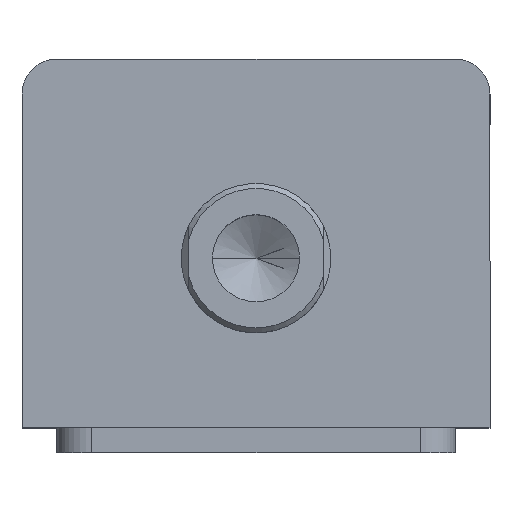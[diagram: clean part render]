
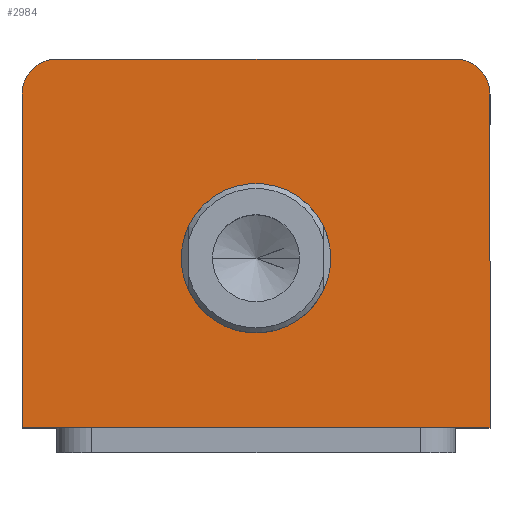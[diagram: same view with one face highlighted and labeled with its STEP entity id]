
A CAD part, top view. The second image highlights one B-rep face of the part: STEP entity #2984.
In plain terms, the highlighted planar face has unit normal (0, 0, 1).
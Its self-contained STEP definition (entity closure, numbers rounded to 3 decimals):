
#258 = LINE ( 'NONE', #1174, #268 ) ;
#268 = VECTOR ( 'NONE', #1182, 1000. ) ;
#281 = LINE ( 'NONE', #1699, #284 ) ;
#284 = VECTOR ( 'NONE', #1691, 1000. ) ;
#300 = CIRCLE ( 'NONE', #1390, 7. ) ;
#304 = CIRCLE ( 'NONE', #1386, 7. ) ;
#422 = VERTEX_POINT ( 'NONE', #1256 ) ;
#428 = VERTEX_POINT ( 'NONE', #1250 ) ;
#432 = VERTEX_POINT ( 'NONE', #1246 ) ;
#479 = ORIENTED_EDGE ( 'NONE', *, *, #1005, .T. ) ;
#606 = ORIENTED_EDGE ( 'NONE', *, *, #967, .T. ) ;
#609 = ORIENTED_EDGE ( 'NONE', *, *, #1153, .F. ) ;
#611 = ORIENTED_EDGE ( 'NONE', *, *, #1020, .F. ) ;
#625 = ORIENTED_EDGE ( 'NONE', *, *, #979, .T. ) ;
#628 = ORIENTED_EDGE ( 'NONE', *, *, #957, .T. ) ;
#635 = ORIENTED_EDGE ( 'NONE', *, *, #983, .T. ) ;
#653 = ORIENTED_EDGE ( 'NONE', *, *, #1150, .T. ) ;
#732 = FACE_BOUND ( 'NONE', #1775, .T. ) ;
#736 = FACE_OUTER_BOUND ( 'NONE', #1779, .T. ) ;
#957 = EDGE_CURVE ( 'NONE', #1339, #422, #258, .T. ) ;
#967 = EDGE_CURVE ( 'NONE', #432, #428, #281, .T. ) ;
#979 = EDGE_CURVE ( 'NONE', #428, #1329, #300, .T. ) ;
#983 = EDGE_CURVE ( 'NONE', #422, #432, #304, .T. ) ;
#1005 = EDGE_CURVE ( 'NONE', #1329, #1987, #2592, .T. ) ;
#1020 = EDGE_CURVE ( 'NONE', #1994, #1757, #2625, .T. ) ;
#1150 = EDGE_CURVE ( 'NONE', #1987, #1339, #2800, .T. ) ;
#1153 = EDGE_CURVE ( 'NONE', #1757, #1994, #2815, .T. ) ;
#1174 = CARTESIAN_POINT ( 'NONE',  ( 47., 37., 95. ) ) ;
#1182 = DIRECTION ( 'NONE',  ( 0., 1., 0. ) ) ;
#1246 = CARTESIAN_POINT ( 'NONE',  ( 40., 37., 95. ) ) ;
#1250 = CARTESIAN_POINT ( 'NONE',  ( -40., 37., 95. ) ) ;
#1256 = CARTESIAN_POINT ( 'NONE',  ( 47., 30., 95. ) ) ;
#1329 = VERTEX_POINT ( 'NONE', #2133 ) ;
#1339 = VERTEX_POINT ( 'NONE', #2089 ) ;
#1370 = AXIS2_PLACEMENT_3D ( 'NONE', #1698, #1697, #1695 ) ;
#1386 = AXIS2_PLACEMENT_3D ( 'NONE', #1555, #1551, #1549 ) ;
#1390 = AXIS2_PLACEMENT_3D ( 'NONE', #1604, #1590, #1586 ) ;
#1549 = DIRECTION ( 'NONE',  ( 1., 0., 0. ) ) ;
#1551 = DIRECTION ( 'NONE',  ( 0., 0., 1. ) ) ;
#1555 = CARTESIAN_POINT ( 'NONE',  ( 40., 30., 95. ) ) ;
#1586 = DIRECTION ( 'NONE',  ( 1., 0., 0. ) ) ;
#1590 = DIRECTION ( 'NONE',  ( 0., 0., 1. ) ) ;
#1604 = CARTESIAN_POINT ( 'NONE',  ( -40., 30., 95. ) ) ;
#1691 = DIRECTION ( 'NONE',  ( -1., 0., 0. ) ) ;
#1695 = DIRECTION ( 'NONE',  ( 1., 0., 0. ) ) ;
#1697 = DIRECTION ( 'NONE',  ( 0., 0., 1. ) ) ;
#1698 = CARTESIAN_POINT ( 'NONE',  ( 0., -3., 95. ) ) ;
#1699 = CARTESIAN_POINT ( 'NONE',  ( -47., 37., 95. ) ) ;
#1739 = DIRECTION ( 'NONE',  ( 0., -1., 0. ) ) ;
#1740 = CARTESIAN_POINT ( 'NONE',  ( -47., 37., 95. ) ) ;
#1757 = VERTEX_POINT ( 'NONE', #2086 ) ;
#1775 = EDGE_LOOP ( 'NONE', ( #611, #609 ) ) ;
#1779 = EDGE_LOOP ( 'NONE', ( #606, #625, #479, #653, #628, #635 ) ) ;
#1888 = AXIS2_PLACEMENT_3D ( 'NONE', #2536, #2541, #2542 ) ;
#1987 = VERTEX_POINT ( 'NONE', #2368 ) ;
#1994 = VERTEX_POINT ( 'NONE', #2367 ) ;
#2086 = CARTESIAN_POINT ( 'NONE',  ( -15., -3., 95. ) ) ;
#2089 = CARTESIAN_POINT ( 'NONE',  ( 47., -37., 95. ) ) ;
#2100 = DIRECTION ( 'NONE',  ( 0., 0., 1. ) ) ;
#2114 = DIRECTION ( 'NONE',  ( 1., 0., 0. ) ) ;
#2118 = CARTESIAN_POINT ( 'NONE',  ( 0., -3., 95. ) ) ;
#2133 = CARTESIAN_POINT ( 'NONE',  ( -47., 30., 95. ) ) ;
#2148 = CARTESIAN_POINT ( 'NONE',  ( -47., -37., 95. ) ) ;
#2176 = DIRECTION ( 'NONE',  ( 1., 0., 0. ) ) ;
#2367 = CARTESIAN_POINT ( 'NONE',  ( 15., -3., 95. ) ) ;
#2368 = CARTESIAN_POINT ( 'NONE',  ( -47., -37., 95. ) ) ;
#2411 = AXIS2_PLACEMENT_3D ( 'NONE', #2118, #2100, #2114 ) ;
#2534 = PLANE ( 'NONE',  #1888 ) ;
#2536 = CARTESIAN_POINT ( 'NONE',  ( 0., 0., 95. ) ) ;
#2541 = DIRECTION ( 'NONE',  ( 0., 0., 1. ) ) ;
#2542 = DIRECTION ( 'NONE',  ( 1., 0., 0. ) ) ;
#2592 = LINE ( 'NONE', #1740, #2595 ) ;
#2595 = VECTOR ( 'NONE', #1739, 1000. ) ;
#2625 = CIRCLE ( 'NONE', #1370, 15. ) ;
#2800 = LINE ( 'NONE', #2148, #2812 ) ;
#2812 = VECTOR ( 'NONE', #2176, 1000. ) ;
#2815 = CIRCLE ( 'NONE', #2411, 15. ) ;
#2984 = ADVANCED_FACE ( 'NONE', ( #732, #736 ), #2534, .T. ) ;
